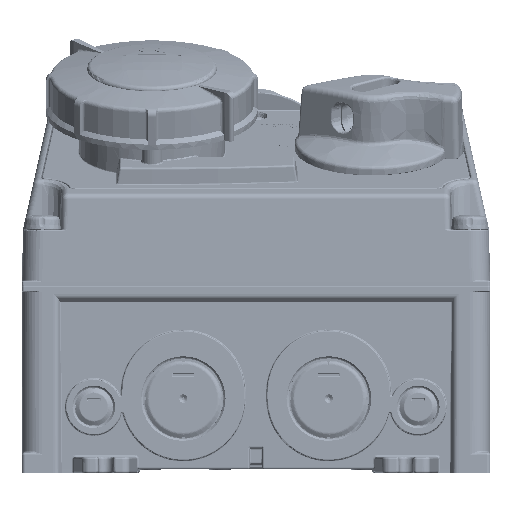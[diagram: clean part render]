
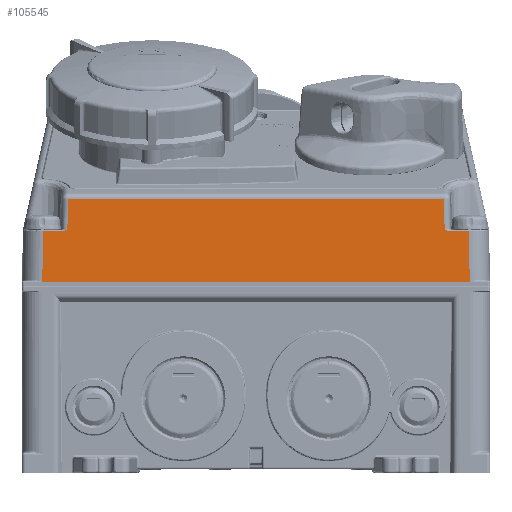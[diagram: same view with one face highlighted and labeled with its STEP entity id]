
A CAD part, front view. The second image highlights one B-rep face of the part: STEP entity #105545.
In plain terms, the highlighted planar face has unit normal (0, -1, 0.018).
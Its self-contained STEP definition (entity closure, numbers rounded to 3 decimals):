
#923=CARTESIAN_POINT('',(215.25,0.001,92.059));
#974=DIRECTION('',(-1.,0.,0.));
#975=VECTOR('',#974,8.749);
#976=CARTESIAN_POINT('',(223.999,0.001,92.059));
#977=LINE('46484',#976,#975);
#5413=DIRECTION('',(-1.,0.,0.));
#5414=VECTOR('',#5413,9.246);
#5415=CARTESIAN_POINT('',(214.824,0.428,116.509));
#5416=LINE('47214',#5415,#5414);
#5537=CARTESIAN_POINT('',(203.146,0.445,117.491));
#5544=CARTESIAN_POINT('',(205.578,0.428,116.509));
#5545=CARTESIAN_POINT('',(205.518,0.428,116.509));
#5546=CARTESIAN_POINT('',(205.395,0.428,116.514));
#5547=CARTESIAN_POINT('',(205.199,0.428,116.538));
#5548=CARTESIAN_POINT('',(204.983,0.429,116.583));
#5549=CARTESIAN_POINT('',(204.746,0.43,116.651));
#5550=CARTESIAN_POINT('',(204.483,0.432,116.748));
#5551=CARTESIAN_POINT('',(204.194,0.434,116.878));
#5552=CARTESIAN_POINT('',(203.877,0.437,117.045));
#5553=CARTESIAN_POINT('',(203.532,0.441,117.248));
#5554=CARTESIAN_POINT('',(203.279,0.443,117.407));
#5555=CARTESIAN_POINT('',(203.146,0.445,117.491));
#5557=DIRECTION('',(0.017,0.017,1.));
#5558=VECTOR('',#5557,24.457);
#5559=CARTESIAN_POINT('',(9.75,0.001,92.059));
#5560=LINE('47238',#5559,#5558);
#5561=DIRECTION('',(0.009,0.017,1.));
#5562=VECTOR('',#5561,14.45);
#5563=CARTESIAN_POINT('',(21.854,0.445,117.491));
#5564=LINE('47241',#5563,#5562);
#5565=DIRECTION('',(0.009,-0.017,-1.));
#5566=VECTOR('',#5565,14.45);
#5567=CARTESIAN_POINT('',(203.02,0.697,131.938));
#5568=LINE('47243',#5567,#5566);
#5569=DIRECTION('',(0.017,-0.017,-1.));
#5570=VECTOR('',#5569,24.457);
#5571=CARTESIAN_POINT('',(214.824,0.428,116.509));
#5572=LINE('46477',#5571,#5570);
#5580=DIRECTION('',(-1.,0.,0.));
#5581=VECTOR('',#5580,8.749);
#5582=CARTESIAN_POINT('',(9.75,0.001,92.059));
#5583=LINE('47237',#5582,#5581);
#5683=DIRECTION('',(-0.012,-0.017,-1.));
#5684=VECTOR('',#5683,0.059);
#5685=CARTESIAN_POINT('',(1.001,0.001,92.059));
#5686=LINE('47246',#5685,#5684);
#64405=DIRECTION('',(1.,0.,0.));
#64406=VECTOR('',#64405,223.);
#64407=CARTESIAN_POINT('',(1.,0.,
92.));
#64408=LINE('47245',#64407,#64406);
#64425=DIRECTION('',(-0.012,0.017,1.));
#64426=VECTOR('',#64425,0.059);
#64427=CARTESIAN_POINT('',(224.,0.,
92.));
#64428=LINE('47244',#64427,#64426);
#65670=CARTESIAN_POINT('',(21.854,0.445,
117.491));
#65671=CARTESIAN_POINT('',(21.721,0.443,
117.407));
#65672=CARTESIAN_POINT('',(21.469,0.441,
117.248));
#65673=CARTESIAN_POINT('',(21.123,0.437,
117.045));
#65674=CARTESIAN_POINT('',(20.807,0.434,
116.879));
#65675=CARTESIAN_POINT('',(20.518,0.432,
116.748));
#65676=CARTESIAN_POINT('',(20.255,0.43,116.651));
#65677=CARTESIAN_POINT('',(20.017,0.429,
116.583));
#65678=CARTESIAN_POINT('',(19.802,0.428,
116.538));
#65679=CARTESIAN_POINT('',(19.605,0.428,
116.514));
#65680=CARTESIAN_POINT('',(19.482,0.428,
116.509));
#65681=CARTESIAN_POINT('',(19.422,0.428,
116.509));
#65692=DIRECTION('',(-1.,0.,0.));
#65693=VECTOR('',#65692,9.246);
#65694=CARTESIAN_POINT('',(19.422,0.428,
116.509));
#65695=LINE('47239',#65694,#65693);
#71130=DIRECTION('',(-1.,0.,0.));
#71131=VECTOR('',#71130,181.04);
#71132=CARTESIAN_POINT('',(203.02,0.697,
131.938));
#71133=LINE('47242',#71132,#71131);
#79508=VERTEX_POINT('',#923);
#79509=CARTESIAN_POINT('',(214.824,0.428,
116.509));
#79510=VERTEX_POINT('',#79509);
#79515=CARTESIAN_POINT('',(223.999,0.001,
92.059));
#79516=VERTEX_POINT('',#79515);
#80246=CARTESIAN_POINT('',(205.578,0.428,
116.509));
#80247=VERTEX_POINT('',#80246);
#80267=VERTEX_POINT('',#5537);
#80268=CARTESIAN_POINT('',(9.75,0.001,
92.059));
#80269=CARTESIAN_POINT('',(1.001,0.001,
92.059));
#80270=VERTEX_POINT('',#80268);
#80271=VERTEX_POINT('',#80269);
#80272=CARTESIAN_POINT('',(10.176,0.428,
116.509));
#80273=VERTEX_POINT('',#80272);
#80274=CARTESIAN_POINT('',(19.422,0.428,
116.509));
#80275=VERTEX_POINT('',#80274);
#80276=VERTEX_POINT('',#65670);
#80277=CARTESIAN_POINT('',(21.98,0.697,
131.938));
#80278=VERTEX_POINT('',#80277);
#80279=CARTESIAN_POINT('',(203.02,0.697,
131.938));
#80280=VERTEX_POINT('',#80279);
#80281=CARTESIAN_POINT('',(224.,0.,
92.));
#80282=VERTEX_POINT('',#80281);
#80283=CARTESIAN_POINT('',(1.,0.,
92.));
#80284=VERTEX_POINT('',#80283);
#105514=CARTESIAN_POINT('',(0.,0.733,134.));
#105515=DIRECTION('',(0.,-1.,0.017));
#105516=DIRECTION('',(0.,-0.017,-1.));
#105517=AXIS2_PLACEMENT_3D('',#105514,#105515,#105516);
#105518=PLANE('60300',#105517);
#105520=ORIENTED_EDGE('47237',*,*,#105519,.F.);
#105522=ORIENTED_EDGE('47238',*,*,#105521,.T.);
#105524=ORIENTED_EDGE('47239',*,*,#105523,.F.);
#105526=ORIENTED_EDGE('47240',*,*,#105525,.F.);
#105528=ORIENTED_EDGE('47241',*,*,#105527,.T.);
#105530=ORIENTED_EDGE('47242',*,*,#105529,.F.);
#105532=ORIENTED_EDGE('47243',*,*,#105531,.T.);
#105533=ORIENTED_EDGE('47236',*,*,#105497,.F.);
#105534=ORIENTED_EDGE('47214',*,*,#105220,.F.);
#105535=ORIENTED_EDGE('46477',*,*,#95618,.T.);
#105536=ORIENTED_EDGE('46484',*,*,#95711,.F.);
#105538=ORIENTED_EDGE('47244',*,*,#105537,.F.);
#105540=ORIENTED_EDGE('47245',*,*,#105539,.F.);
#105542=ORIENTED_EDGE('47246',*,*,#105541,.F.);
#105543=EDGE_LOOP('60300',(#105520,#105522,#105524,#105526,#105528,#105530,
#105532,#105533,#105534,#105535,#105536,#105538,#105540,#105542));
#105544=FACE_OUTER_BOUND('60300',#105543,.F.);
#5556=B_SPLINE_CURVE_WITH_KNOTS('47236',3,(#5544,#5545,#5546,#5547,#5548,#5549,
#5550,#5551,#5552,#5553,#5554,#5555),.UNSPECIFIED.,.F.,.F.,(4,1,1,1,1,1,1,1,1,
4),(0.,0.111,0.222,0.333,
0.444,0.556,0.667,0.778,
0.889,1.),.UNSPECIFIED.);
#65682=B_SPLINE_CURVE_WITH_KNOTS('47240',3,(#65670,#65671,#65672,#65673,#65674,
#65675,#65676,#65677,#65678,#65679,#65680,#65681),.UNSPECIFIED.,.F.,.F.,(4,1,1,
1,1,1,1,1,1,4),(0.,0.111,0.222,0.333,
0.444,0.556,0.667,0.778,
0.889,1.),.UNSPECIFIED.);
#95618=EDGE_CURVE('46477',#79510,#79508,#5572,.T.);
#95711=EDGE_CURVE('46484',#79516,#79508,#977,.T.);
#105220=EDGE_CURVE('47214',#79510,#80247,#5416,.T.);
#105497=EDGE_CURVE('47236',#80247,#80267,#5556,.T.);
#105519=EDGE_CURVE('47237',#80270,#80271,#5583,.T.);
#105521=EDGE_CURVE('47238',#80270,#80273,#5560,.T.);
#105523=EDGE_CURVE('47239',#80275,#80273,#65695,.T.);
#105525=EDGE_CURVE('47240',#80276,#80275,#65682,.T.);
#105527=EDGE_CURVE('47241',#80276,#80278,#5564,.T.);
#105529=EDGE_CURVE('47242',#80280,#80278,#71133,.T.);
#105531=EDGE_CURVE('47243',#80280,#80267,#5568,.T.);
#105537=EDGE_CURVE('47244',#80282,#79516,#64428,.T.);
#105539=EDGE_CURVE('47245',#80284,#80282,#64408,.T.);
#105541=EDGE_CURVE('47246',#80271,#80284,#5686,.T.);
#105545=ADVANCED_FACE('60300',(#105544),#105518,.T.);
